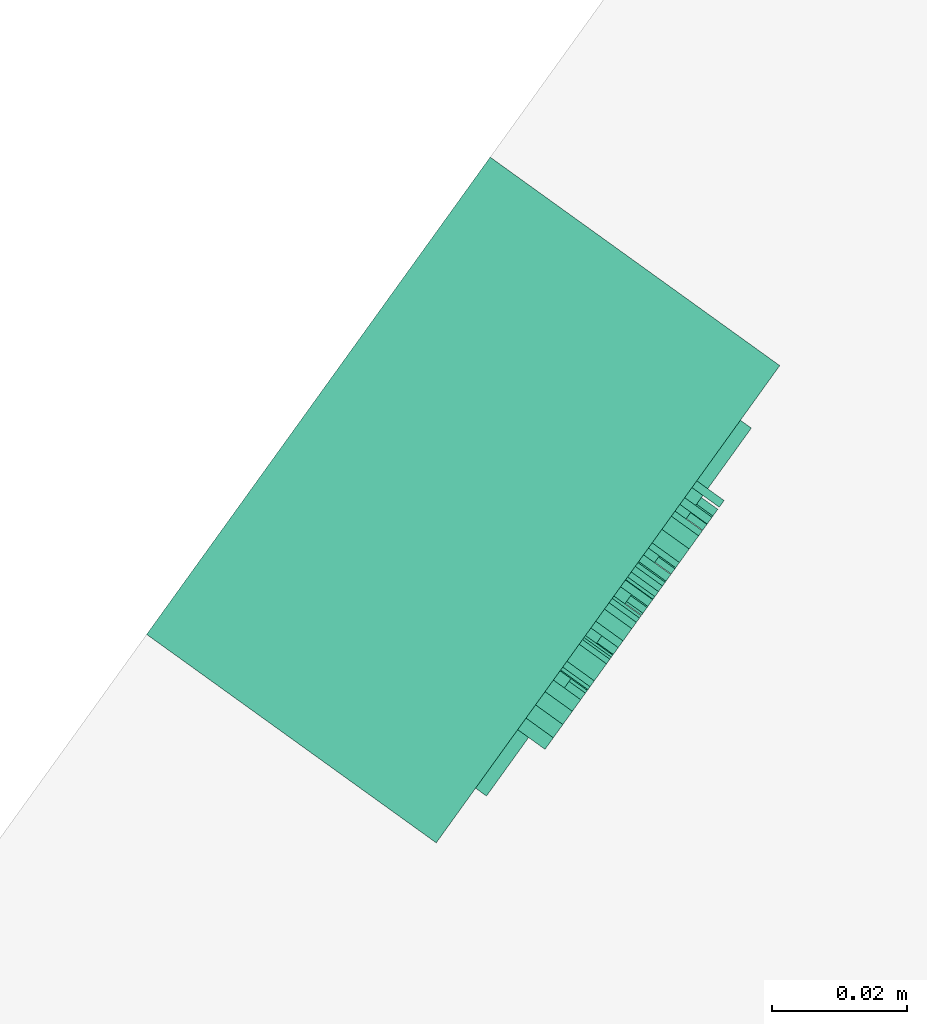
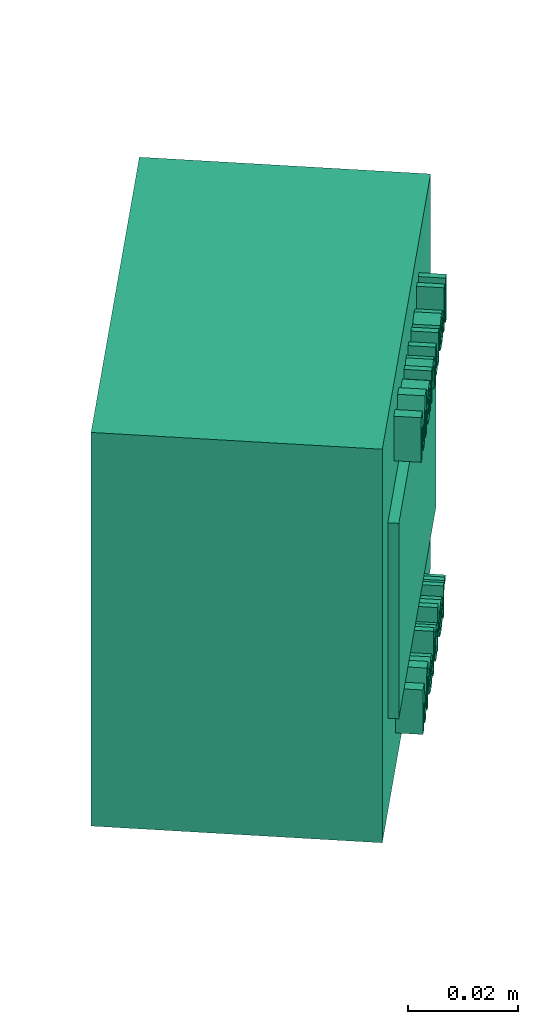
# One storey, part 10 of 10: 1 distribution control element.
"""IFC2X3 building model written with IfcOpenShell, lengths in millimetres."""

from ifc_helpers import new_model, entity, si_unit, converted_unit, derived_unit, direction, frame, origin, origin_with_axes, place, context, subcontext, project, spatial, faceted_brep, source, transform, mapped, material, material_list, type_object, element, save


model = new_model("IFC2X3")

# Units and contexts
model_context = context("Model", 3, precision=0.01, world=origin(), true_north=direction((6.12323399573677e-17, 1.0)))
plan_context = context("Plan", 3, precision=1e-05, world=origin_with_axes())
body_context = subcontext(model_context, "Body", "Model", "MODEL_VIEW")
ifc_project = project(units=[converted_unit("PLANEANGLEUNIT", "DEGREE", entity("IfcPositiveLengthMeasure", 0.0174532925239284), si_unit("PLANEANGLEUNIT", "RADIAN"), dimensions=[0, 0, 0, 0, 0, 0, 0]), si_unit("AREAUNIT", "SQUARE_METRE"), si_unit("LENGTHUNIT", "METRE", prefix="MILLI"), si_unit("MASSUNIT", "GRAM", prefix="KILO"), si_unit("POWERUNIT", "WATT"), si_unit("PRESSUREUNIT", "PASCAL", prefix="KILO"), si_unit("FORCEUNIT", "NEWTON", prefix="KILO"), si_unit("ELECTRICVOLTAGEUNIT", "VOLT"), si_unit("ELECTRICCURRENTUNIT", "AMPERE"), si_unit("THERMODYNAMICTEMPERATUREUNIT", "DEGREE_CELSIUS"), si_unit("TIMEUNIT", "SECOND"), si_unit("VOLUMEUNIT", "CUBIC_METRE"), derived_unit("LINEARVELOCITYUNIT", [(si_unit("LENGTHUNIT", "METRE"), 1), (si_unit("TIMEUNIT", "SECOND"), -1)]), derived_unit("VOLUMETRICFLOWRATEUNIT", [(si_unit("VOLUMEUNIT", "CUBIC_METRE"), 1), (si_unit("TIMEUNIT", "SECOND"), -1)]), derived_unit("THERMALTRANSMITTANCEUNIT", [(si_unit("POWERUNIT", "WATT"), 1), (si_unit("THERMODYNAMICTEMPERATUREUNIT", "KELVIN"), -1), (si_unit("AREAUNIT", "SQUARE_METRE"), -1)]), derived_unit("SOUNDPRESSUREUNIT", [(si_unit("PRESSUREUNIT", "PASCAL"), 1)])], contexts=[model_context, plan_context])

# Site, building, storey
site_placement = place(None, frame((-305029.896016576, -232111.759730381, 0.0), z_axis=(0.0, 0.0, 1.0), x_axis=(-0.160806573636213, 0.986985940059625, 0.0)))
site = spatial("IfcSite", under=ifc_project, at=site_placement, Name="Default", CompositionType="ELEMENT")
building_placement = place(site_placement, frame((0.0, 0.0, 0.0), z_axis=(0.0, 0.0, 1.0), x_axis=(1.0, -2.77555756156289e-17, 0.0)))
building = spatial("IfcBuilding", under=site, at=building_placement, Name="br001-a-200-1-0001", CompositionType="ELEMENT")
storey_placement = place(building_placement, frame((0.0, 0.0, 55500.0), z_axis=(0.0, 0.0, 1.0), x_axis=(1.0, -2.77555756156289e-17, 0.0)))
storey = spatial("IfcBuildingStorey", under=building, at=storey_placement, Name="H02-Nivå F-3,5 m", CompositionType="ELEMENT", Elevation=55500.0)

# Distribution control element
ifc_material_1 = material(Name="<Unnamed>")
ifc_material_2 = material(Name="Aluminum, Anodized Red")
ifc_material_3 = material(Name="Glass")
ifc_material_list = material_list([ifc_material_1, ifc_material_2, ifc_material_3])
alarm_type = type_object("IfcAlarmType", Name="Manuell melder:Manuell melder", PredefinedType="NOTDEFINED", material=ifc_material_list)
shared_shape = source(origin(), body_context, "Body", "Brep", [
    faceted_brep([(58.0, -19.6398366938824, -54592.4578881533), (58.0, -18.4090674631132, -54592.4578881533), (58.0, -18.4090674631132, -54583.8425035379), (58.0, -15.9355097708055, -54592.4578881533), (58.0, -14.2672405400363, -54592.4578881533), (58.0, -11.7936828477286, -54583.8425035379), (58.0, -11.7936828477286, -54592.4578881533), (58.0, -10.5629136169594, -54592.4578881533), (58.0, -10.5629136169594, -54582.6117343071), (58.0, -12.6807020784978, -54582.6117343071), (58.0, -14.6614713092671, -54589.4314458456), (58.0, -15.1013751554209, -54591.001157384), (58.0, -15.5076251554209, -54589.5516381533), (58.0, -17.522048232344, -54582.6117343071), (58.0, -19.6398366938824, -54582.6117343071), (53.0, -19.6398366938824, -54592.4578881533), (53.0, -19.6398366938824, -54582.6117343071), (53.0, -17.522048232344, -54582.6117343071), (53.0, -15.5076251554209, -54589.5516381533), (53.0, -15.1013751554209, -54591.001157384), (53.0, -14.6614713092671, -54589.4314458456), (53.0, -12.6807020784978, -54582.6117343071), (53.0, -10.5629136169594, -54582.6117343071), (53.0, -10.5629136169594, -54592.4578881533), (53.0, -11.7936828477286, -54592.4578881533), (53.0, -11.7936828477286, -54583.8425035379), (53.0, -14.2672405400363, -54592.4578881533), (53.0, -15.9355097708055, -54592.4578881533), (53.0, -18.4090674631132, -54583.8425035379), (53.0, -18.4090674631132, -54592.4578881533)], [[[0, 1, 2, 3, 4, 5, 6, 7, 8, 9, 10, 11, 12, 13, 14]], [[15, 16, 17, 18, 19, 20, 21, 22, 23, 24, 25, 26, 27, 28, 29]], [[1, 0, 15, 29]], [[2, 1, 29, 28]], [[3, 2, 28, 27]], [[4, 3, 27, 26]], [[5, 4, 26, 25]], [[6, 5, 25, 24]], [[7, 6, 24, 23]], [[8, 7, 23, 22]], [[9, 8, 22, 21]], [[10, 9, 21, 20]], [[11, 10, 20, 19]], [[12, 11, 19, 18]], [[13, 12, 18, 17]], [[14, 13, 17, 16]], [[0, 14, 16, 15]]]),
    faceted_brep([(58.0, -7.7936828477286, -54587.9963496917), (58.0, -7.11459630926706, -54586.7643785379), (58.0, -5.59897130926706, -54586.3040419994), (58.0, -3.97877900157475, -54586.8809650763), (58.0, -3.48599054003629, -54587.9963496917), (58.0, -3.50041361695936, -54590.3040419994), (58.0, -4.29368284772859, -54591.1237535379), (58.0, -5.50041361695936, -54591.3809650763), (58.0, -7.0857501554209, -54590.8256766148), (58.0, -7.7936828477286, -54589.2271189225), (58.0, -2.25522130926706, -54588.8953881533), (58.0, -3.18911554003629, -54586.0756766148), (58.0, -5.59416361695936, -54585.0732727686), (58.0, -8.07012515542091, -54586.0780804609), (58.0, -9.02445207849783, -54588.9025996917), (58.0, -8.07974054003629, -54591.6369746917), (58.0, -5.52445207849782, -54592.6117343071), (58.0, -3.42228861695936, -54592.0468304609), (58.0, -2.29368284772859, -54590.4578881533), (53.0, -7.7936828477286, -54587.9963496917), (53.0, -3.48599054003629, -54587.9963496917), (53.0, -3.97877900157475, -54586.8809650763), (53.0, -5.59897130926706, -54586.3040419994), (53.0, -7.11459630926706, -54586.7643785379), (53.0, -3.50041361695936, -54590.3040419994), (53.0, -2.29368284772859, -54590.4578881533), (53.0, -3.42228861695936, -54592.0468304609), (53.0, -5.52445207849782, -54592.6117343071), (53.0, -8.07974054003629, -54591.6369746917), (53.0, -9.02445207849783, -54588.9025996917), (53.0, -8.07012515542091, -54586.0780804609), (53.0, -5.59416361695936, -54585.0732727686), (53.0, -3.18911554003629, -54586.0756766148), (53.0, -2.25522130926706, -54588.8953881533), (53.0, -7.7936828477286, -54589.2271189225), (53.0, -7.0857501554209, -54590.8256766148), (53.0, -5.50041361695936, -54591.3809650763), (53.0, -4.29368284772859, -54591.1237535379)], [[[0, 1, 2, 3, 4], [5, 6, 7, 8, 9, 10, 11, 12, 13, 14, 15, 16, 17, 18]], [[19, 20, 21, 22, 23], [24, 25, 26, 27, 28, 29, 30, 31, 32, 33, 34, 35, 36, 37]], [[1, 0, 19, 23]], [[2, 1, 23, 22]], [[3, 2, 22, 21]], [[4, 3, 21, 20]], [[0, 4, 20, 19]], [[6, 5, 24, 37]], [[7, 6, 37, 36]], [[8, 7, 36, 35]], [[9, 8, 35, 34]], [[10, 9, 34, 33]], [[11, 10, 33, 32]], [[12, 11, 32, 31]], [[13, 12, 31, 30]], [[14, 13, 30, 29]], [[15, 14, 29, 28]], [[16, 15, 28, 27]], [[17, 16, 27, 26]], [[18, 17, 26, 25]], [[5, 18, 25, 24]]], outer=[[False, True], [False, True], [True], [True], [True], [True], [True], [True], [True], [True], [True], [True], [True], [True], [True], [True], [True], [True], [True], [True], [True]]),
    faceted_brep([(58.0, -1.02445207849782, -54592.4578881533), (58.0, 0.206317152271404, -54592.4578881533), (58.0, 0.206317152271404, -54582.6117343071), (58.0, -1.02445207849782, -54582.6117343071), (53.0, -1.02445207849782, -54592.4578881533), (53.0, -1.02445207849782, -54582.6117343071), (53.0, 0.206317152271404, -54582.6117343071), (53.0, 0.206317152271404, -54592.4578881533)], [[[0, 1, 2, 3]], [[4, 5, 6, 7]], [[1, 0, 4, 7]], [[2, 1, 7, 6]], [[3, 2, 6, 5]], [[0, 3, 5, 4]]]),
    faceted_brep([(58.0, 6.51400945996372, -54592.4578881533), (58.0, 7.74477869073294, -54592.4578881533), (58.0, 7.74477869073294, -54582.6117343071), (58.0, 6.51400945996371, -54582.6117343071), (58.0, 6.51400945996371, -54586.2800035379), (58.0, 5.70391330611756, -54585.4086093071), (58.0, 4.56929792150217, -54585.0732727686), (58.0, 2.99838445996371, -54585.5420227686), (58.0, 1.94309599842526, -54586.890580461), (58.0, 1.5909325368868, -54588.8497150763), (58.0, 1.97314407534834, -54590.8076477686), (58.0, 3.05006715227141, -54592.1357727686), (58.0, 4.57410561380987, -54592.6117343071), (58.0, 6.51400945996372, -54591.296830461), (58.0, 2.82170176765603, -54588.844907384), (58.0, 3.34093253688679, -54586.9158208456), (58.0, 4.63660561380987, -54586.3040419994), (58.0, 5.9719421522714, -54586.9410612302), (58.0, 6.51400945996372, -54588.938657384), (58.0, 5.98155753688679, -54590.7788016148), (58.0, 4.68708638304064, -54591.3809650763), (58.0, 3.37699022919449, -54590.7499554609), (53.0, 6.51400945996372, -54592.4578881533), (53.0, 6.51400945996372, -54591.296830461), (53.0, 4.57410561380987, -54592.6117343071), (53.0, 3.05006715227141, -54592.1357727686), (53.0, 1.97314407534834, -54590.8076477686), (53.0, 1.5909325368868, -54588.8497150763), (53.0, 1.94309599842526, -54586.890580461), (53.0, 2.99838445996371, -54585.5420227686), (53.0, 4.56929792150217, -54585.0732727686), (53.0, 5.70391330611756, -54585.4086093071), (53.0, 6.51400945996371, -54586.2800035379), (53.0, 6.51400945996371, -54582.6117343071), (53.0, 7.74477869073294, -54582.6117343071), (53.0, 7.74477869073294, -54592.4578881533), (53.0, 2.82170176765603, -54588.844907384), (53.0, 3.37699022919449, -54590.7499554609), (53.0, 4.68708638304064, -54591.3809650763), (53.0, 5.98155753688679, -54590.7788016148), (53.0, 6.51400945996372, -54588.938657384), (53.0, 5.9719421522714, -54586.9410612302), (53.0, 4.63660561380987, -54586.3040419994), (53.0, 3.34093253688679, -54586.9158208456)], [[[0, 1, 2, 3, 4, 5, 6, 7, 8, 9, 10, 11, 12, 13], [14, 15, 16, 17, 18, 19, 20, 21]], [[22, 23, 24, 25, 26, 27, 28, 29, 30, 31, 32, 33, 34, 35], [36, 37, 38, 39, 40, 41, 42, 43]], [[1, 0, 22, 35]], [[2, 1, 35, 34]], [[3, 2, 34, 33]], [[4, 3, 33, 32]], [[5, 4, 32, 31]], [[6, 5, 31, 30]], [[7, 6, 30, 29]], [[8, 7, 29, 28]], [[9, 8, 28, 27]], [[10, 9, 27, 26]], [[11, 10, 26, 25]], [[12, 11, 25, 24]], [[13, 12, 24, 23]], [[0, 13, 23, 22]], [[15, 14, 36, 43]], [[16, 15, 43, 42]], [[17, 16, 42, 41]], [[18, 17, 41, 40]], [[19, 18, 40, 39]], [[20, 19, 39, 38]], [[21, 20, 38, 37]], [[14, 21, 37, 36]]]),
    faceted_brep([(58.0, 14.6534325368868, -54590.3040419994), (58.0, 13.8601633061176, -54591.1237535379), (58.0, 12.6534325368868, -54591.3809650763), (58.0, 11.0680959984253, -54590.8256766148), (58.0, 10.3601633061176, -54589.2271189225), (58.0, 15.8986248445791, -54588.8953881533), (58.0, 14.9647306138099, -54586.0756766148), (58.0, 12.5596825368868, -54585.0732727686), (58.0, 10.0837209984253, -54586.0780804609), (58.0, 9.12939407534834, -54588.9025996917), (58.0, 10.0741056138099, -54591.6369746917), (58.0, 12.6293940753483, -54592.6117343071), (58.0, 14.7315575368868, -54592.0468304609), (58.0, 15.8601633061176, -54590.4578881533), (58.0, 10.3601633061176, -54587.9963496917), (58.0, 11.0392498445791, -54586.7643785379), (58.0, 12.5548748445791, -54586.3040419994), (58.0, 14.1750671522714, -54586.8809650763), (58.0, 14.6678556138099, -54587.9963496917), (53.0, 14.6534325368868, -54590.3040419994), (53.0, 15.8601633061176, -54590.4578881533), (53.0, 14.7315575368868, -54592.0468304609), (53.0, 12.6293940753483, -54592.6117343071), (53.0, 10.0741056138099, -54591.6369746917), (53.0, 9.12939407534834, -54588.9025996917), (53.0, 10.0837209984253, -54586.0780804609), (53.0, 12.5596825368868, -54585.0732727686), (53.0, 14.9647306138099, -54586.0756766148), (53.0, 15.8986248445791, -54588.8953881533), (53.0, 10.3601633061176, -54589.2271189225), (53.0, 11.0680959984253, -54590.8256766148), (53.0, 12.6534325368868, -54591.3809650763), (53.0, 13.8601633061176, -54591.1237535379), (53.0, 10.3601633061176, -54587.9963496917), (53.0, 14.6678556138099, -54587.9963496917), (53.0, 14.1750671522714, -54586.8809650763), (53.0, 12.5548748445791, -54586.3040419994), (53.0, 11.0392498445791, -54586.7643785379)], [[[0, 1, 2, 3, 4, 5, 6, 7, 8, 9, 10, 11, 12, 13], [14, 15, 16, 17, 18]], [[19, 20, 21, 22, 23, 24, 25, 26, 27, 28, 29, 30, 31, 32], [33, 34, 35, 36, 37]], [[1, 0, 19, 32]], [[2, 1, 32, 31]], [[3, 2, 31, 30]], [[4, 3, 30, 29]], [[5, 4, 29, 28]], [[6, 5, 28, 27]], [[7, 6, 27, 26]], [[8, 7, 26, 25]], [[9, 8, 25, 24]], [[10, 9, 24, 23]], [[11, 10, 23, 22]], [[12, 11, 22, 21]], [[13, 12, 21, 20]], [[0, 13, 20, 19]], [[15, 14, 33, 37]], [[16, 15, 37, 36]], [[17, 16, 36, 35]], [[18, 17, 35, 34]], [[14, 18, 34, 33]]]),
    faceted_brep([(58.0, 17.1293940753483, -54592.4578881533), (58.0, 18.3601633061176, -54592.4578881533), (58.0, 18.3601633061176, -54588.657407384), (58.0, 18.5596825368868, -54587.219907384), (58.0, 19.6991056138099, -54586.3040419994), (58.0, 20.5644902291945, -54586.5564458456), (58.0, 20.9755479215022, -54585.453080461), (58.0, 19.7399709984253, -54585.0732727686), (58.0, 18.9707402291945, -54585.3112535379), (58.0, 18.2063171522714, -54586.2968304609), (58.0, 18.2063171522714, -54585.2271189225), (58.0, 17.1293940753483, -54585.2271189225), (53.0, 17.1293940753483, -54592.4578881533), (53.0, 17.1293940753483, -54585.2271189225), (53.0, 18.2063171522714, -54585.2271189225), (53.0, 18.2063171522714, -54586.2968304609), (53.0, 18.9707402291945, -54585.3112535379), (53.0, 19.7399709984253, -54585.0732727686), (53.0, 20.9755479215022, -54585.453080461), (53.0, 20.5644902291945, -54586.5564458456), (53.0, 19.6991056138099, -54586.3040419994), (53.0, 18.5596825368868, -54587.219907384), (53.0, 18.3601633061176, -54588.657407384), (53.0, 18.3601633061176, -54592.4578881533)], [[[0, 1, 2, 3, 4, 5, 6, 7, 8, 9, 10, 11]], [[12, 13, 14, 15, 16, 17, 18, 19, 20, 21, 22, 23]], [[1, 0, 12, 23]], [[2, 1, 23, 22]], [[3, 2, 22, 21]], [[4, 3, 21, 20]], [[5, 4, 20, 19]], [[6, 5, 19, 18]], [[7, 6, 18, 17]], [[8, 7, 17, 16]], [[9, 8, 16, 15]], [[10, 9, 15, 14]], [[11, 10, 14, 13]], [[0, 11, 13, 12]]]),
    faceted_brep([(58.0, -22.9574645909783, -54529.9713499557), (58.0, -21.7266953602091, -54529.9713499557), (58.0, -21.7266953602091, -54521.3559653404), (58.0, -19.2531376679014, -54529.9713499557), (58.0, -17.5848684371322, -54529.9713499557), (58.0, -15.1113107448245, -54521.3559653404), (58.0, -15.1113107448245, -54529.9713499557), (58.0, -13.8805415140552, -54529.9713499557), (58.0, -13.8805415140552, -54520.1251961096), (58.0, -15.9983299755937, -54520.1251961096), (58.0, -17.9790992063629, -54526.944907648), (58.0, -18.4190030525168, -54528.5146191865), (58.0, -18.8252530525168, -54527.0650999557), (58.0, -20.8396761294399, -54520.1251961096), (58.0, -22.9574645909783, -54520.1251961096), (53.0, -22.9574645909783, -54529.9713499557), (53.0, -22.9574645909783, -54520.1251961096), (53.0, -20.8396761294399, -54520.1251961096), (53.0, -18.8252530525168, -54527.0650999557), (53.0, -18.4190030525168, -54528.5146191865), (53.0, -17.9790992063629, -54526.944907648), (53.0, -15.9983299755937, -54520.1251961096), (53.0, -13.8805415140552, -54520.1251961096), (53.0, -13.8805415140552, -54529.9713499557), (53.0, -15.1113107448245, -54529.9713499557), (53.0, -15.1113107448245, -54521.3559653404), (53.0, -17.5848684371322, -54529.9713499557), (53.0, -19.2531376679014, -54529.9713499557), (53.0, -21.7266953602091, -54521.3559653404), (53.0, -21.7266953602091, -54529.9713499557)], [[[0, 1, 2, 3, 4, 5, 6, 7, 8, 9, 10, 11, 12, 13, 14]], [[15, 16, 17, 18, 19, 20, 21, 22, 23, 24, 25, 26, 27, 28, 29]], [[1, 0, 15, 29]], [[2, 1, 29, 28]], [[3, 2, 28, 27]], [[4, 3, 27, 26]], [[5, 4, 26, 25]], [[6, 5, 25, 24]], [[7, 6, 24, 23]], [[8, 7, 23, 22]], [[9, 8, 22, 21]], [[10, 9, 21, 20]], [[11, 10, 20, 19]], [[12, 11, 19, 18]], [[13, 12, 18, 17]], [[14, 13, 17, 16]], [[0, 14, 16, 15]]]),
    faceted_brep([(58.0, -7.26515689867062, -54529.0482730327), (58.0, -6.95746459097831, -54529.9713499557), (58.0, -5.72669536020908, -54529.9713499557), (58.0, -5.97188766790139, -54528.9364941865), (58.0, -6.03438766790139, -54526.7982730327), (58.0, -6.03438766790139, -54525.2670230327), (58.0, -6.09448382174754, -54524.1900999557), (58.0, -6.47188766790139, -54523.3547634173), (58.0, -7.31443574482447, -54522.8054845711), (58.0, -8.80602228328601, -54522.5867345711), (58.0, -10.4298203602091, -54522.834330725), (58.0, -11.5019357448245, -54523.538657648), (58.0, -12.0343876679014, -54524.740580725), (58.0, -10.8036184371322, -54524.8944268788), (58.0, -10.2098684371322, -54524.0542826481), (58.0, -8.96467612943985, -54523.8175038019), (58.0, -7.60409920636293, -54524.1732730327), (58.0, -7.27236843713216, -54525.3559653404), (58.0, -9.40698382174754, -54525.7790422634), (58.0, -10.4718876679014, -54525.9641384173), (58.0, -11.3336665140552, -54526.3679845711), (58.0, -11.9526568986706, -54527.0747153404), (58.0, -12.1882338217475, -54528.0482730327), (58.0, -11.5644357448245, -54529.5410614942), (58.0, -9.77717612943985, -54530.1251961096), (58.0, -8.45866651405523, -54529.882407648), (58.0, -7.26876266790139, -54526.7610134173), (58.0, -7.4670799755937, -54527.8872153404), (58.0, -8.26996459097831, -54528.599955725), (58.0, -9.51515689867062, -54528.8944268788), (58.0, -10.3096280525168, -54527.163657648), (58.0, -9.25073382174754, -54526.9641384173), (53.0, -7.26515689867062, -54529.0482730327), (53.0, -8.45866651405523, -54529.882407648), (53.0, -9.77717612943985, -54530.1251961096), (53.0, -11.5644357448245, -54529.5410614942), (53.0, -12.1882338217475, -54528.0482730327), (53.0, -11.9526568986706, -54527.0747153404), (53.0, -11.3336665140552, -54526.3679845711), (53.0, -10.4718876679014, -54525.9641384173), (53.0, -9.40698382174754, -54525.7790422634), (53.0, -7.27236843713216, -54525.3559653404), (53.0, -7.60409920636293, -54524.1732730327), (53.0, -8.96467612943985, -54523.8175038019), (53.0, -10.2098684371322, -54524.0542826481), (53.0, -10.8036184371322, -54524.8944268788), (53.0, -12.0343876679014, -54524.740580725), (53.0, -11.5019357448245, -54523.538657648), (53.0, -10.4298203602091, -54522.834330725), (53.0, -8.80602228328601, -54522.5867345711), (53.0, -7.31443574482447, -54522.8054845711), (53.0, -6.47188766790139, -54523.3547634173), (53.0, -6.09448382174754, -54524.1900999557), (53.0, -6.03438766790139, -54525.2670230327), (53.0, -6.03438766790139, -54526.7982730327), (53.0, -5.97188766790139, -54528.9364941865), (53.0, -5.72669536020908, -54529.9713499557), (53.0, -6.95746459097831, -54529.9713499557), (53.0, -7.26876266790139, -54526.7610134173), (53.0, -9.25073382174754, -54526.9641384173), (53.0, -10.3096280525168, -54527.163657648), (53.0, -9.51515689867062, -54528.8944268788), (53.0, -8.26996459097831, -54528.599955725), (53.0, -7.4670799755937, -54527.8872153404)], [[[0, 1, 2, 3, 4, 5, 6, 7, 8, 9, 10, 11, 12, 13, 14, 15, 16, 17, 18, 19, 20, 21, 22, 23, 24, 25], [26, 27, 28, 29, 30, 31]], [[32, 33, 34, 35, 36, 37, 38, 39, 40, 41, 42, 43, 44, 45, 46, 47, 48, 49, 50, 51, 52, 53, 54, 55, 56, 57], [58, 59, 60, 61, 62, 63]], [[1, 0, 32, 57]], [[2, 1, 57, 56]], [[3, 2, 56, 55]], [[4, 3, 55, 54]], [[5, 4, 54, 53]], [[6, 5, 53, 52]], [[7, 6, 52, 51]], [[8, 7, 51, 50]], [[9, 8, 50, 49]], [[10, 9, 49, 48]], [[11, 10, 48, 47]], [[12, 11, 47, 46]], [[13, 12, 46, 45]], [[14, 13, 45, 44]], [[15, 14, 44, 43]], [[16, 15, 43, 42]], [[17, 16, 42, 41]], [[18, 17, 41, 40]], [[19, 18, 40, 39]], [[20, 19, 39, 38]], [[21, 20, 38, 37]], [[22, 21, 37, 36]], [[23, 22, 36, 35]], [[24, 23, 35, 34]], [[25, 24, 34, 33]], [[0, 25, 33, 32]], [[27, 26, 58, 63]], [[28, 27, 63, 62]], [[29, 28, 62, 61]], [[30, 29, 61, 60]], [[31, 30, 60, 59]], [[26, 31, 59, 58]]]),
    faceted_brep([(58.0, -4.3420799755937, -54529.9713499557), (58.0, -3.11131074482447, -54529.9713499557), (58.0, -3.11131074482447, -54526.1348114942), (58.0, -2.5500126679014, -54524.3006768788), (58.0, -1.21467612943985, -54523.8175038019), (58.0, 0.13147771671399, -54524.6083691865), (58.0, 0.27330463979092, -54525.6973114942), (58.0, 0.27330463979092, -54529.9713499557), (58.0, 1.50407387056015, -54529.9713499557), (58.0, 1.50407387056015, -54525.5314461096), (58.0, 1.4391700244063, -54524.3415422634), (58.0, 1.07017963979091, -54523.4364941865), (58.0, 0.276910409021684, -54522.8211095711), (58.0, -0.885349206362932, -54522.5867345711), (58.0, -3.11131074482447, -54523.7501961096), (58.0, -3.11131074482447, -54522.740580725), (58.0, -4.3420799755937, -54522.740580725), (53.0, -4.3420799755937, -54529.9713499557), (53.0, -4.3420799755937, -54522.740580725), (53.0, -3.11131074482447, -54522.740580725), (53.0, -3.11131074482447, -54523.7501961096), (53.0, -0.885349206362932, -54522.5867345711), (53.0, 0.276910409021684, -54522.8211095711), (53.0, 1.07017963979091, -54523.4364941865), (53.0, 1.4391700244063, -54524.3415422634), (53.0, 1.50407387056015, -54525.5314461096), (53.0, 1.50407387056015, -54529.9713499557), (53.0, 0.27330463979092, -54529.9713499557), (53.0, 0.27330463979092, -54525.6973114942), (53.0, 0.13147771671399, -54524.6083691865), (53.0, -1.21467612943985, -54523.8175038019), (53.0, -2.5500126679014, -54524.3006768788), (53.0, -3.11131074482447, -54526.1348114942), (53.0, -3.11131074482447, -54529.9713499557)], [[[0, 1, 2, 3, 4, 5, 6, 7, 8, 9, 10, 11, 12, 13, 14, 15, 16]], [[17, 18, 19, 20, 21, 22, 23, 24, 25, 26, 27, 28, 29, 30, 31, 32, 33]], [[1, 0, 17, 33]], [[2, 1, 33, 32]], [[3, 2, 32, 31]], [[4, 3, 31, 30]], [[5, 4, 30, 29]], [[6, 5, 29, 28]], [[7, 6, 28, 27]], [[8, 7, 27, 26]], [[9, 8, 26, 25]], [[10, 9, 25, 24]], [[11, 10, 24, 23]], [[12, 11, 23, 22]], [[13, 12, 22, 21]], [[14, 13, 21, 20]], [[15, 14, 20, 19]], [[16, 15, 19, 18]], [[0, 16, 18, 17]]]),
    faceted_brep([(58.0, 7.81176617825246, -54529.9713499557), (58.0, 9.04253540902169, -54529.9713499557), (58.0, 9.04253540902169, -54522.740580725), (58.0, 7.81176617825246, -54522.740580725), (58.0, 7.81176617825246, -54526.5025999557), (58.0, 7.61224694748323, -54527.8739941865), (58.0, 6.93316040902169, -54528.6203884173), (58.0, 5.90551617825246, -54528.8944268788), (58.0, 4.98844887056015, -54528.6263980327), (58.0, 4.5016700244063, -54527.8896191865), (58.0, 4.42715079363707, -54526.6348114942), (58.0, 4.42715079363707, -54522.740580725), (58.0, 3.19638156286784, -54522.740580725), (58.0, 3.19638156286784, -54527.2141384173), (58.0, 3.26849694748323, -54528.3583691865), (58.0, 3.63508348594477, -54529.2646191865), (58.0, 4.43316040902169, -54529.8800038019), (58.0, 5.59061233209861, -54530.1251961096), (58.0, 7.81176617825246, -54528.7285614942), (53.0, 7.81176617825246, -54529.9713499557), (53.0, 7.81176617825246, -54528.7285614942), (53.0, 5.59061233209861, -54530.1251961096), (53.0, 4.43316040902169, -54529.8800038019), (53.0, 3.63508348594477, -54529.2646191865), (53.0, 3.26849694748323, -54528.3583691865), (53.0, 3.19638156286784, -54527.2141384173), (53.0, 3.19638156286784, -54522.740580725), (53.0, 4.42715079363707, -54522.740580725), (53.0, 4.42715079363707, -54526.6348114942), (53.0, 4.5016700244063, -54527.8896191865), (53.0, 4.98844887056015, -54528.6263980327), (53.0, 5.90551617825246, -54528.8944268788), (53.0, 6.93316040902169, -54528.6203884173), (53.0, 7.61224694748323, -54527.8739941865), (53.0, 7.81176617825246, -54526.5025999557), (53.0, 7.81176617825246, -54522.740580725), (53.0, 9.04253540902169, -54522.740580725), (53.0, 9.04253540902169, -54529.9713499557)], [[[0, 1, 2, 3, 4, 5, 6, 7, 8, 9, 10, 11, 12, 13, 14, 15, 16, 17, 18]], [[19, 20, 21, 22, 23, 24, 25, 26, 27, 28, 29, 30, 31, 32, 33, 34, 35, 36, 37]], [[1, 0, 19, 37]], [[2, 1, 37, 36]], [[3, 2, 36, 35]], [[4, 3, 35, 34]], [[5, 4, 34, 33]], [[6, 5, 33, 32]], [[7, 6, 32, 31]], [[8, 7, 31, 30]], [[9, 8, 30, 29]], [[10, 9, 29, 28]], [[11, 10, 28, 27]], [[12, 11, 27, 26]], [[13, 12, 26, 25]], [[14, 13, 25, 24]], [[15, 14, 24, 23]], [[16, 15, 23, 22]], [[17, 16, 22, 21]], [[18, 17, 21, 20]], [[0, 18, 20, 19]]]),
    faceted_brep([(58.0, 15.7973431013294, -54527.8175038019), (58.0, 15.0040738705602, -54528.6372153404), (58.0, 13.7973431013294, -54528.8944268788), (58.0, 12.2120065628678, -54528.3391384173), (58.0, 11.5040738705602, -54526.740580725), (58.0, 17.0425354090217, -54526.4088499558), (58.0, 16.1086411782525, -54523.5891384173), (58.0, 13.7035931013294, -54522.5867345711), (58.0, 11.2276315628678, -54523.5915422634), (58.0, 10.2733046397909, -54526.4160614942), (58.0, 11.2180161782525, -54529.1504364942), (58.0, 13.7733046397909, -54530.1251961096), (58.0, 15.8754681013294, -54529.5602922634), (58.0, 17.0040738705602, -54527.9713499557), (58.0, 11.5040738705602, -54525.5098114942), (58.0, 12.1831604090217, -54524.2778403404), (58.0, 13.6987854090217, -54523.8175038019), (58.0, 15.318977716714, -54524.3944268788), (58.0, 15.8117661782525, -54525.5098114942), (53.0, 15.7973431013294, -54527.8175038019), (53.0, 17.0040738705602, -54527.9713499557), (53.0, 15.8754681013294, -54529.5602922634), (53.0, 13.7733046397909, -54530.1251961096), (53.0, 11.2180161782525, -54529.1504364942), (53.0, 10.2733046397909, -54526.4160614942), (53.0, 11.2276315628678, -54523.5915422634), (53.0, 13.7035931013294, -54522.5867345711), (53.0, 16.1086411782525, -54523.5891384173), (53.0, 17.0425354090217, -54526.4088499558), (53.0, 11.5040738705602, -54526.740580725), (53.0, 12.2120065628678, -54528.3391384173), (53.0, 13.7973431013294, -54528.8944268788), (53.0, 15.0040738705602, -54528.6372153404), (53.0, 11.5040738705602, -54525.5098114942), (53.0, 15.8117661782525, -54525.5098114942), (53.0, 15.318977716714, -54524.3944268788), (53.0, 13.6987854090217, -54523.8175038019), (53.0, 12.1831604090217, -54524.2778403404)], [[[0, 1, 2, 3, 4, 5, 6, 7, 8, 9, 10, 11, 12, 13], [14, 15, 16, 17, 18]], [[19, 20, 21, 22, 23, 24, 25, 26, 27, 28, 29, 30, 31, 32], [33, 34, 35, 36, 37]], [[1, 0, 19, 32]], [[2, 1, 32, 31]], [[3, 2, 31, 30]], [[4, 3, 30, 29]], [[5, 4, 29, 28]], [[6, 5, 28, 27]], [[7, 6, 27, 26]], [[8, 7, 26, 25]], [[9, 8, 25, 24]], [[10, 9, 24, 23]], [[11, 10, 23, 22]], [[12, 11, 22, 21]], [[13, 12, 21, 20]], [[0, 13, 20, 19]], [[15, 14, 33, 37]], [[16, 15, 37, 36]], [[17, 16, 36, 35]], [[18, 17, 35, 34]], [[14, 18, 34, 33]]]),
    faceted_brep([(58.0, 18.2733046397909, -54529.9713499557), (58.0, 19.5040738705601, -54529.9713499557), (58.0, 19.5040738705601, -54520.1251961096), (58.0, 18.2733046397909, -54520.1251961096), (53.0, 18.2733046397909, -54529.9713499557), (53.0, 18.2733046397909, -54520.1251961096), (53.0, 19.5040738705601, -54520.1251961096), (53.0, 19.5040738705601, -54529.9713499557)], [[[0, 1, 2, 3]], [[4, 5, 6, 7]], [[1, 0, 4, 7]], [[2, 1, 7, 6]], [[3, 2, 6, 5]], [[0, 3, 5, 4]]]),
    faceted_brep([(58.0, 21.350227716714, -54529.9713499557), (58.0, 22.5809969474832, -54529.9713499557), (58.0, 22.5809969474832, -54520.1251961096), (58.0, 21.350227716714, -54520.1251961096), (53.0, 21.350227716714, -54529.9713499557), (53.0, 21.350227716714, -54520.1251961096), (53.0, 22.5809969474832, -54520.1251961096), (53.0, 22.5809969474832, -54529.9713499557)], [[[0, 1, 2, 3]], [[4, 5, 6, 7]], [[1, 0, 4, 7]], [[2, 1, 7, 6]], [[3, 2, 6, 5]], [[0, 3, 5, 4]]]),
    faceted_brep([(53.0, 43.6725394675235, -54513.0), (53.0, -43.6725394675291, -54513.0), (53.0, -43.6725394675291, -54600.0), (53.0, 43.6725394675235, -54600.0), (53.0, 33.6725394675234, -54536.2109092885), (53.0, 33.6725394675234, -54579.4191910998), (53.0, -33.6725394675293, -54579.4191910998), (53.0, -33.6725394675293, -54536.2109092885), (0.0, 43.6725394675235, -54513.0), (0.0, 43.6725394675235, -54600.0), (0.0, -43.6725394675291, -54600.0), (0.0, -43.6725394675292, -54513.0), (33.0, 33.6725394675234, -54536.2109092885), (33.0, -33.6725394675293, -54536.2109092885), (33.0, -33.6725394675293, -54579.4191910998), (33.0, 33.6725394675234, -54579.4191910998)], [[[0, 1, 2, 3], [4, 5, 6, 7]], [[8, 9, 10, 11]], [[1, 0, 8, 11]], [[2, 1, 11, 10]], [[3, 2, 10, 9]], [[0, 3, 9, 8]], [[12, 13, 14, 15]], [[12, 15, 5, 4]], [[15, 14, 6, 5]], [[14, 13, 7, 6]], [[13, 12, 4, 7]]]),
    faceted_brep([(53.0, 33.6725394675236, -54579.4191910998), (53.0, -33.6725394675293, -54579.4191910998), (53.0, -33.6725394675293, -54536.2109092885), (53.0, 33.6725394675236, -54536.2109092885), (55.0, 33.6725394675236, -54579.4191910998), (55.0, 33.6725394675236, -54536.2109092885), (55.0, -33.6725394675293, -54536.2109092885), (55.0, -33.6725394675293, -54579.4191910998)], [[[0, 1, 2, 3]], [[4, 5, 6, 7]], [[5, 4, 0, 3]], [[6, 5, 3, 2]], [[7, 6, 2, 1]], [[4, 7, 1, 0]]]),
])
distribution_control_element_placement = place(storey_placement, frame((1195171.19118538, -688540.852501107, 55500.0), z_axis=(0.0, 0.0, 1.0), x_axis=(-0.707106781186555, -0.70710678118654, 0.0)))
element("IfcDistributionControlElement", 1, at=distribution_control_element_placement, inside=storey, type_object=alarm_type, material=ifc_material_list, Name="Manuell melder:Manuell melder", ObjectType="Manuell melder:Manuell melder", context=body_context, shape_type="MappedRepresentation", body=[
    mapped(shared_shape, transform((0.0, 0.0, 0.0), scale=1.0)),
])

save(model, "model.ifc")
